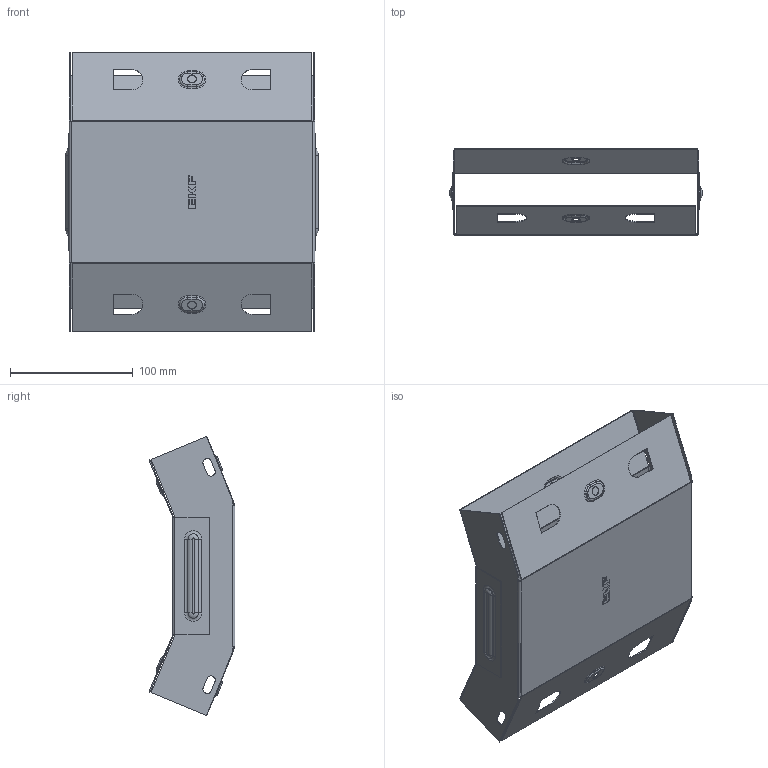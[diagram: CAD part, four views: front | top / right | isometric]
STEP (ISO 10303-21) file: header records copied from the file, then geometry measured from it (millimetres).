
FILE_DESCRIPTION (( 'STEP AP214' ), '1' );
FILE_NAME ('vi4550200_捘.STEP', '2019-06-10T08:28:51', ( '砐錪賧瘔蠈錪 Windows' ), ( '' ), 'SwSTEP 2.0', 'SolidWorks 2018', '' );
FILE_SCHEMA (( 'AUTOMOTIVE_DESIGN' ));
Length unit declared in the file: millimetre
Products named in the file (1): vi4550200_捘
Bounding box: 205.6 x 69.93 x 227.28 mm (x, y, z)
Volume: 88292.7 mm3; surface area: 223068.1 mm2
Topology: 2 solids, 2 shells, 432 faces, 1104 edges, 704 vertices
Faces by surface type: plane 234, cylinder 116, torus 64, bspline 18
Entity records: 13972 total; most frequent: CARTESIAN_POINT 3260, DIRECTION 2226, ORIENTED_EDGE 2208, EDGE_CURVE 1104, AXIS2_PLACEMENT_3D 743, VECTOR 740, LINE 740, VERTEX_POINT 704
